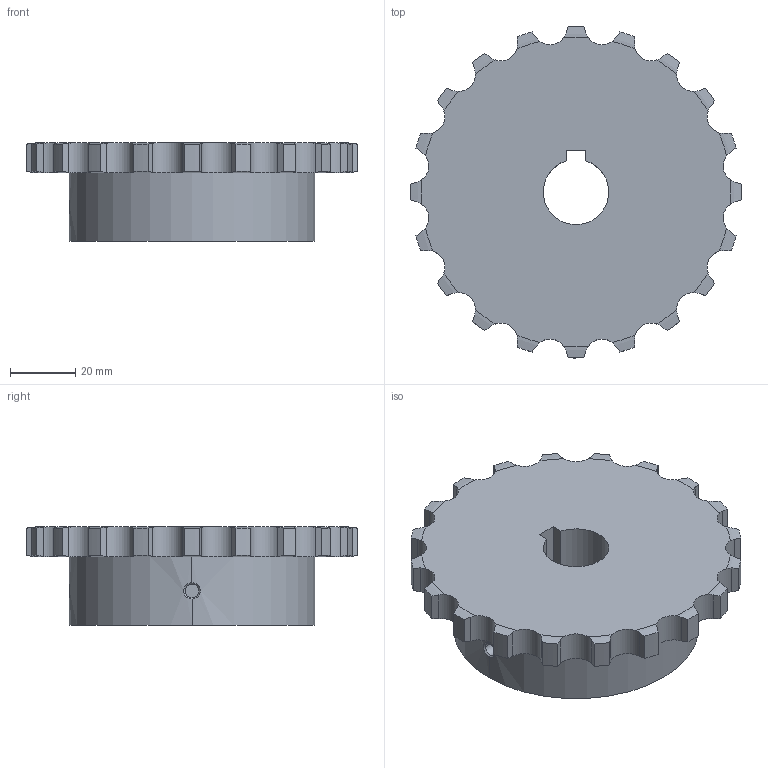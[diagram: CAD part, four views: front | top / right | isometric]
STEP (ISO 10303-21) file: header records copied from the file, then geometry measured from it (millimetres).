
FILE_DESCRIPTION((''),'2;1');
FILE_NAME('510-301-2020_PRT','2021-02-13T',('Brieden'),('Brieden'),'PRO/ENGINEER BY PARAMETRIC TECHNOLOGY CORPORATION, 2010160','PRO/ENGINEER BY PARAMETRIC TECHNOLOGY CORPORATION, 2010160','');
FILE_SCHEMA(('AUTOMOTIVE_DESIGN { 1 0 10303 214 1 1 1 1 }'));
Length unit declared in the file: millimetre
Products named in the file (1): 510-301-2020_PRT
Bounding box: 101.48 x 101.48 x 30 mm (x, y, z)
Volume: 148031.3 mm3; surface area: 24861.6 mm2
Topology: 1 solids, 1 shells, 141 faces, 405 edges, 268 vertices
Faces by surface type: cylinder 87, torus 40, plane 8, bspline 6
Entity records: 6840 total; most frequent: CARTESIAN_POINT 2089, ORIENTED_EDGE 810, DIRECTION 633, PRESENTATION_STYLE_ASSIGNMENT 406, STYLED_ITEM 406, CURVE_STYLE 405, EDGE_CURVE 405, VERTEX_POINT 268
